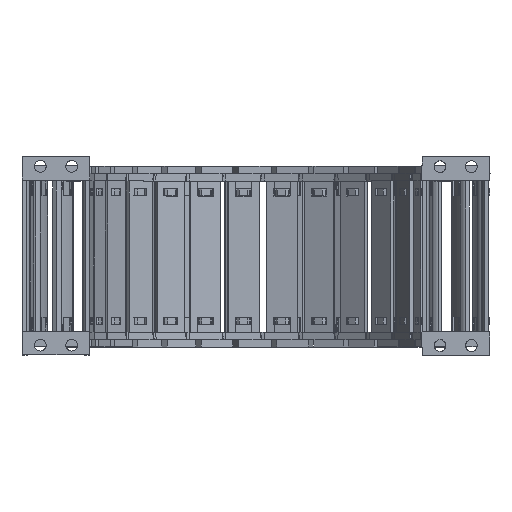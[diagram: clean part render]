
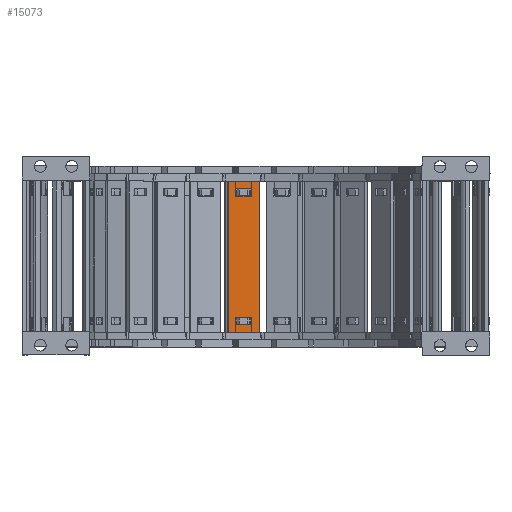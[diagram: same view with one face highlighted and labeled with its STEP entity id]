
A CAD part, top view. The second image highlights one B-rep face of the part: STEP entity #15073.
In plain terms, the highlighted planar face has unit normal (0.048, 0, 0.999).
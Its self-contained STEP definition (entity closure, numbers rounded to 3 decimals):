
#162=FACE_BOUND('',#30481,.T.);
#163=FACE_BOUND('',#30482,.T.);
#164=FACE_BOUND('',#30483,.T.);
#8711=PLANE('',#146224);
#15073=ADVANCED_FACE('',(#162,#163,#164),#8711,.F.);
#30481=EDGE_LOOP('',(#63649,#63650,#63651,#63652));
#30482=EDGE_LOOP('',(#63653,#63654,#63655,#63656));
#30483=EDGE_LOOP('',(#63657,#63658,#63659,#63660));
#63649=ORIENTED_EDGE('',*,*,#104155,.F.);
#63650=ORIENTED_EDGE('',*,*,#104126,.F.);
#63651=ORIENTED_EDGE('',*,*,#104160,.F.);
#63652=ORIENTED_EDGE('',*,*,#104137,.F.);
#63653=ORIENTED_EDGE('',*,*,#104172,.F.);
#63654=ORIENTED_EDGE('',*,*,#104165,.F.);
#63655=ORIENTED_EDGE('',*,*,#104204,.F.);
#63656=ORIENTED_EDGE('',*,*,#104179,.T.);
#63657=ORIENTED_EDGE('',*,*,#104202,.T.);
#63658=ORIENTED_EDGE('',*,*,#104205,.F.);
#63659=ORIENTED_EDGE('',*,*,#104206,.F.);
#63660=ORIENTED_EDGE('',*,*,#104207,.F.);
#86184=VERTEX_POINT('',#224477);
#86185=VERTEX_POINT('',#224479);
#86191=VERTEX_POINT('',#224494);
#86194=VERTEX_POINT('',#224500);
#86211=VERTEX_POINT('',#224557);
#86212=VERTEX_POINT('',#224558);
#86218=VERTEX_POINT('',#224572);
#86221=VERTEX_POINT('',#224580);
#86234=VERTEX_POINT('',#224627);
#86235=VERTEX_POINT('',#224629);
#86236=VERTEX_POINT('',#224634);
#86237=VERTEX_POINT('',#224636);
#104126=EDGE_CURVE('',#86184,#86185,#119852,.T.);
#104137=EDGE_CURVE('',#86194,#86191,#119863,.T.);
#104155=EDGE_CURVE('',#86185,#86194,#119878,.T.);
#104160=EDGE_CURVE('',#86191,#86184,#119883,.T.);
#104165=EDGE_CURVE('',#86211,#86212,#119888,.T.);
#104172=EDGE_CURVE('',#86212,#86218,#119895,.T.);
#104179=EDGE_CURVE('',#86221,#86218,#119902,.T.);
#104202=EDGE_CURVE('',#86235,#86234,#119916,.T.);
#104204=EDGE_CURVE('',#86221,#86211,#119918,.T.);
#104205=EDGE_CURVE('',#86236,#86234,#119919,.T.);
#104206=EDGE_CURVE('',#86237,#86236,#119920,.T.);
#104207=EDGE_CURVE('',#86235,#86237,#119921,.T.);
#119852=LINE('',#224478,#133314);
#119863=LINE('',#224501,#133325);
#119878=LINE('',#224536,#133340);
#119883=LINE('',#224545,#133345);
#119888=LINE('',#224556,#133350);
#119895=LINE('',#224571,#133357);
#119902=LINE('',#224584,#133364);
#119916=LINE('',#224628,#133378);
#119918=LINE('',#224632,#133380);
#119919=LINE('',#224633,#133381);
#119920=LINE('',#224635,#133382);
#119921=LINE('',#224637,#133383);
#133314=VECTOR('',#175489,1.);
#133325=VECTOR('',#175504,1.);
#133340=VECTOR('',#175539,1.);
#133345=VECTOR('',#175548,1.);
#133350=VECTOR('',#175557,1.);
#133357=VECTOR('',#175566,1.);
#133364=VECTOR('',#175575,1.);
#133378=VECTOR('',#175625,1.);
#133380=VECTOR('',#175629,1.);
#133381=VECTOR('',#175630,1.);
#133382=VECTOR('',#175631,1.);
#133383=VECTOR('',#175632,1.);
#146224=AXIS2_PLACEMENT_3D('',#224638,#175633,#175634);
#175489=DIRECTION('',(0.999,0.,-0.048));
#175504=DIRECTION('',(-0.999,0.,0.048));
#175539=DIRECTION('',(0.,1.,0.));
#175548=DIRECTION('',(0.,-1.,0.));
#175557=DIRECTION('',(-0.999,0.,0.048));
#175566=DIRECTION('',(0.,-1.,0.));
#175575=DIRECTION('',(-0.999,0.,0.048));
#175625=DIRECTION('',(0.,-1.,0.));
#175629=DIRECTION('',(0.,1.,0.));
#175630=DIRECTION('',(-0.999,0.,0.048));
#175631=DIRECTION('',(0.,-1.,0.));
#175632=DIRECTION('',(0.999,0.,-0.048));
#175633=DIRECTION('',(-0.048,0.,-0.999));
#175634=DIRECTION('',(-0.999,0.,0.048));
#224477=CARTESIAN_POINT('',(-112.088,-73.03,-104.598));
#224478=CARTESIAN_POINT('',(-112.088,-73.03,-104.598));
#224479=CARTESIAN_POINT('',(-103.947,-73.03,-104.989));
#224494=CARTESIAN_POINT('',(-112.088,-69.382,-104.598));
#224500=CARTESIAN_POINT('',(-103.947,-69.382,-104.989));
#224501=CARTESIAN_POINT('',(-103.947,-69.382,-104.989));
#224536=CARTESIAN_POINT('',(-103.947,-104.46,-104.989));
#224545=CARTESIAN_POINT('',(-112.088,-100.86,-104.598));
#224556=CARTESIAN_POINT('',(-103.947,-3.97,-104.989));
#224557=CARTESIAN_POINT('',(-103.947,-3.97,-104.989));
#224558=CARTESIAN_POINT('',(-112.088,-3.97,-104.598));
#224571=CARTESIAN_POINT('',(-112.088,-3.97,-104.598));
#224572=CARTESIAN_POINT('',(-112.088,-7.618,-104.598));
#224580=CARTESIAN_POINT('',(-103.947,-7.618,-104.989));
#224584=CARTESIAN_POINT('',(-103.947,-7.618,-104.989));
#224627=CARTESIAN_POINT('',(-115.908,-77.,-104.414));
#224628=CARTESIAN_POINT('',(-115.908,0.,-104.414));
#224629=CARTESIAN_POINT('',(-115.908,0.,-104.414));
#224632=CARTESIAN_POINT('',(-103.947,-7.618,-104.989));
#224633=CARTESIAN_POINT('',(-100.127,-77.,-105.172));
#224634=CARTESIAN_POINT('',(-100.127,-77.,-105.172));
#224635=CARTESIAN_POINT('',(-100.127,0.,-105.172));
#224636=CARTESIAN_POINT('',(-100.127,0.,-105.172));
#224637=CARTESIAN_POINT('',(-115.908,0.,-104.414));
#224638=CARTESIAN_POINT('',(-97.969,31.74,-105.276));
